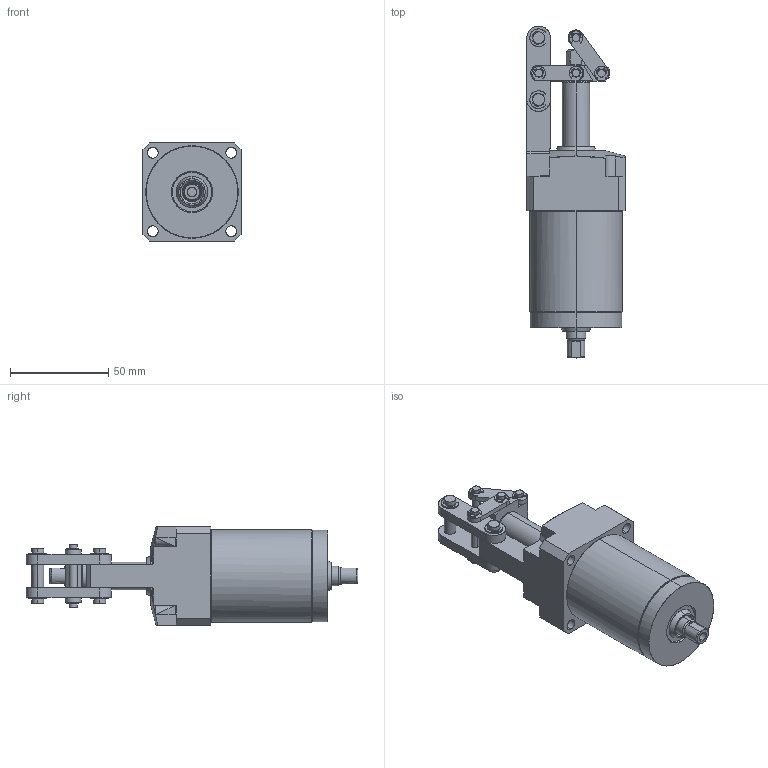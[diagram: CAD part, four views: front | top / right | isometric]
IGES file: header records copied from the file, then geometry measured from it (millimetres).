
Start section: Comment
Global section: file name: JLF5H28-34KD.igs; native system:  By Spatial Corp.; preprocessor: XPlus GENERIC/IGES 3.0; author: Author; organization: Title; date: 20080526.113641; units: millimetre
Bounding box: 50 x 168.99 x 50 mm (x, y, z)
Surface area: 47118.3 mm2 (no closed solid volume)
Topology: 0 solids, 0 shells, 565 faces, 2962 edges, 2956 vertices
Faces by surface type: bspline 565
